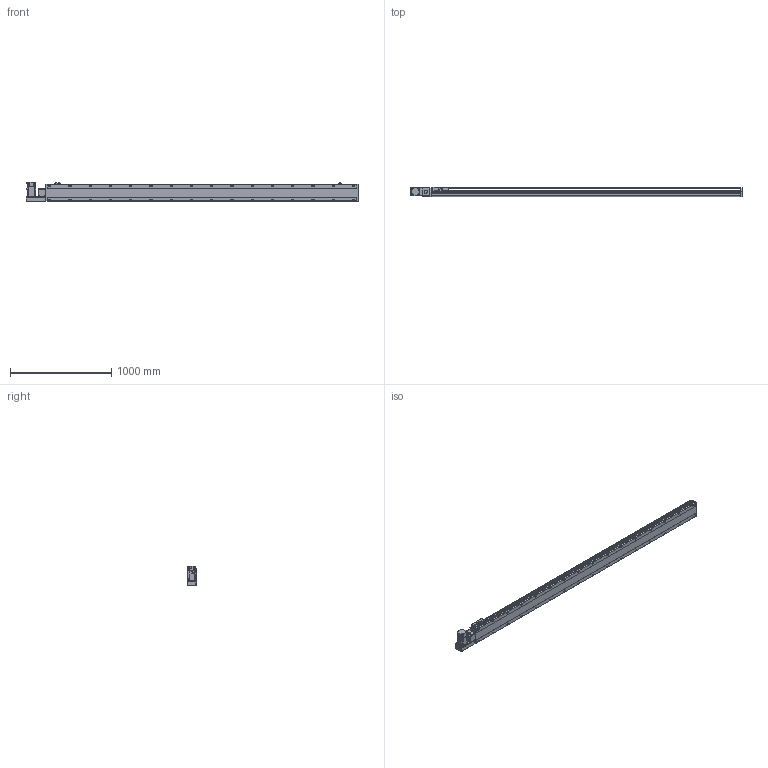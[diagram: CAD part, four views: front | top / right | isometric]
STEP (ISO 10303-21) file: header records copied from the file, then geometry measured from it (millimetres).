
FILE_DESCRIPTION( ( 'STEP AP214' ), '1' );
FILE_NAME( 'x:/temp/worker_3/temp/exporttempdir_5796_126_Q33Qj/format_0/PBS170-P40-S2800-L-T75-C1-N(0).stp', '2022-06-07T06:59:16', ( 'License CC BY-ND 4.0' ), ( 'CADENAS' ), ' ', 'PARTsolutions', ' ' );
FILE_SCHEMA( ( 'AUTOMOTIVE_DESIGN { 1 0 10303 214 1 1 1 1 }' ) );
Length unit declared in the file: millimetre
Products named in the file (7): PBS170-P40-S2800-L-T75-C1-N(0); _PBS170-S2800()_body; _PBS170T-L_motors; _T75-p1; _PBS170_sliser; _PBS170_plant; _PBS170_sensor
Assembly tree (8 placements, depth 2):
  PBS170-P40-S2800-L-T75-C1-N(0)
    _PBS170-S2800()_body
    _PBS170T-L_motors
    _T75-p1
    _PBS170_sliser
    _PBS170_plant
    _PBS170_sensor  x3
Bounding box: 3278 x 97 x 197.3 mm (x, y, z)
Volume: 23818205.2 mm3; surface area: 2986693.6 mm2
Topology: 8 solids, 8 shells, 1210 faces, 3195 edges, 2082 vertices
Faces by surface type: plane 735, cylinder 403, cone 62, sphere 8, torus 2
Full cylindrical faces by diameter (mm): 3.242 x4, 4 x2, 4.4 x4, 4.5 x6, 4.917 x4, 6 x9, 6.647 x40, 7 x2, 7.5 x4, 8 x8, 8.5 x32, 10 x4, 10.5 x32, 11 x2, 30 x2, 40 x1, 70 x1
Entity records: 44876 total; most frequent: CARTESIAN_POINT 7565, DIRECTION 5860, ORIENTED_EDGE 5508, EDGE_CURVE 2754, AXIS2_PLACEMENT_3D 2077, VERTEX_POINT 1922, LINE 1706, VECTOR 1706
